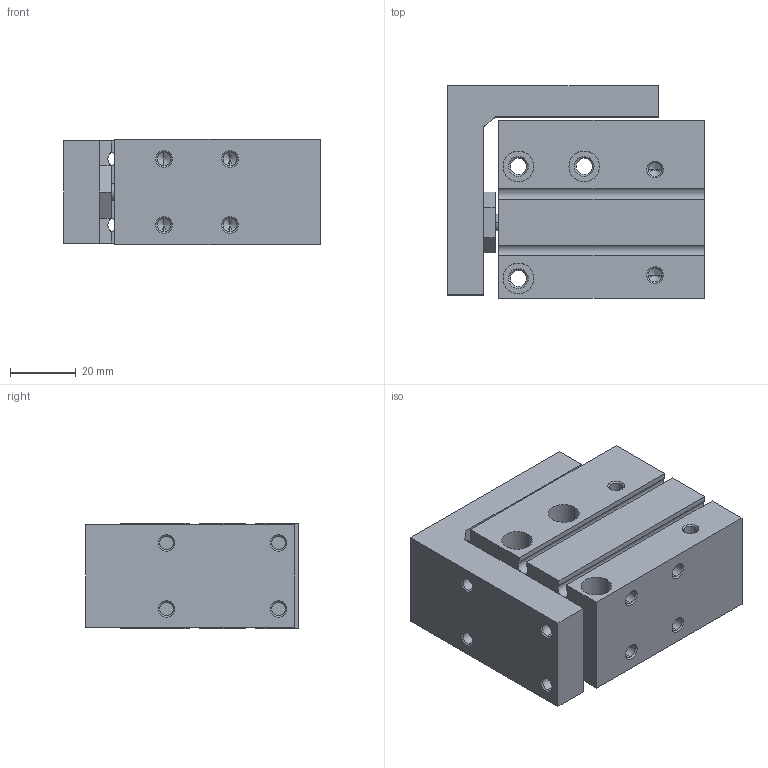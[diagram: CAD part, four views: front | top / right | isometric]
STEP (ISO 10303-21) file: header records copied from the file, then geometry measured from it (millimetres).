
FILE_DESCRIPTION (( 'STEP AP203' ), '1' );
FILE_NAME ('CXH20-10.STEP', '2020-04-16T18:14:09', ( '' ), ( '' ), 'SwSTEP 2.0', 'SolidWorks 2019', '' );
FILE_SCHEMA (( 'CONFIG_CONTROL_DESIGN' ));
Length unit declared in the file: millimetre
Products named in the file (1): CXH20-10
Bounding box: 78 x 64.5 x 32 mm (x, y, z)
Volume: 132220.4 mm3; surface area: 35096 mm2
Topology: 2 solids, 2 shells, 210 faces, 499 edges, 288 vertices
Faces by surface type: cone 90, cylinder 76, plane 44
Entity records: 6040 total; most frequent: DIRECTION 1099, CARTESIAN_POINT 1080, ORIENTED_EDGE 942, EDGE_CURVE 471, AXIS2_PLACEMENT_3D 423, VERTEX_POINT 288, EDGE_LOOP 255, VECTOR 253
